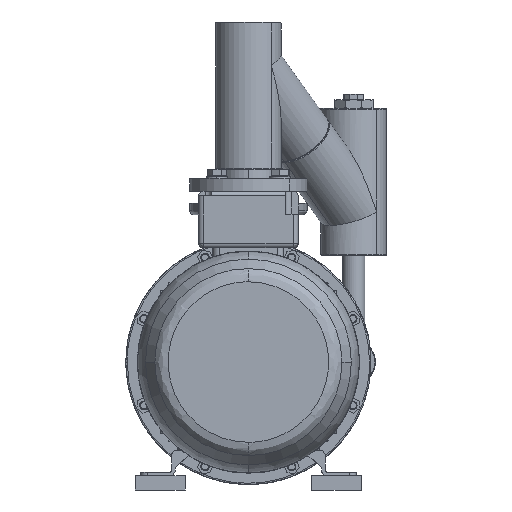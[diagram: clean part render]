
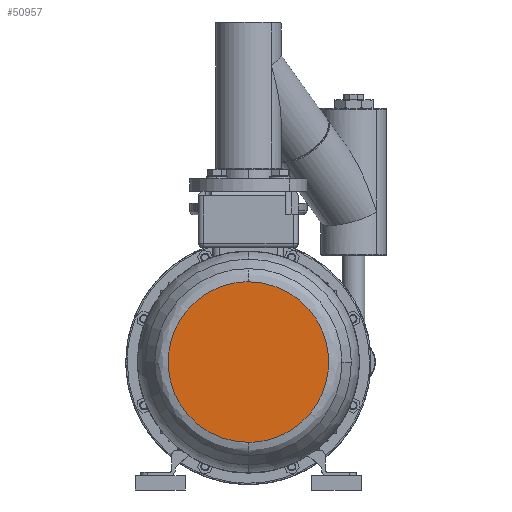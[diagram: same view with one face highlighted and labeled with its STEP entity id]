
A CAD part, front view. The second image highlights one B-rep face of the part: STEP entity #50957.
In plain terms, the highlighted planar face has unit normal (0, -1, 0).
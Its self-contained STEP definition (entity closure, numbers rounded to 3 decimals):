
#7953 = CARTESIAN_POINT ( 'NONE',  ( -154.625, -859.435, 167.656 ) ) ;
#7955 = CARTESIAN_POINT ( 'NONE',  ( -380.49, -859.435, 167.656 ) ) ;
#7957 = CARTESIAN_POINT ( 'NONE',  ( -380.49, -859.435, -58.209 ) ) ;
#7958 = CARTESIAN_POINT ( 'NONE',  ( -154.625, -859.435, -58.209 ) ) ;
#7969 =( BOUNDED_CURVE ( )  B_SPLINE_CURVE ( 3, ( #7958, #7957, #7955, #7953 ),
 .UNSPECIFIED., .F., .T. ) 
 B_SPLINE_CURVE_WITH_KNOTS ( ( 4, 4 ),
 ( 0., 1. ),
 .UNSPECIFIED. ) 
 CURVE ( )  GEOMETRIC_REPRESENTATION_ITEM ( )  RATIONAL_B_SPLINE_CURVE ( ( 1., 0.333, 0.333, 1. ) ) 
 REPRESENTATION_ITEM ( '' )  );
#10782 = CARTESIAN_POINT ( 'NONE',  ( -154.625, -859.435, 167.656 ) ) ;
#11221 = CARTESIAN_POINT ( 'NONE',  ( -154.625, -859.435, -58.209 ) ) ;
#14391 = FACE_OUTER_BOUND ( 'NONE', #51663, .T. ) ;
#14402 = PLANE ( 'NONE',  #14515 ) ;
#14480 = DIRECTION ( 'NONE',  ( 1., 0., 0. ) ) ;
#14497 = DIRECTION ( 'NONE',  ( 0., -1., 0. ) ) ;
#14498 = CARTESIAN_POINT ( 'NONE',  ( -154.625, -859.435, 54.724 ) ) ;
#14515 = AXIS2_PLACEMENT_3D ( 'NONE', #14498, #14497, #14480 ) ;
#14578 = CARTESIAN_POINT ( 'NONE',  ( -154.625, -859.435, -58.209 ) ) ;
#14581 = CARTESIAN_POINT ( 'NONE',  ( 71.24, -859.435, -58.209 ) ) ;
#14583 = CARTESIAN_POINT ( 'NONE',  ( 71.24, -859.435, 167.656 ) ) ;
#14586 = CARTESIAN_POINT ( 'NONE',  ( -154.625, -859.435, 167.656 ) ) ;
#14597 =( BOUNDED_CURVE ( )  B_SPLINE_CURVE ( 3, ( #14586, #14583, #14581, #14578 ),
 .UNSPECIFIED., .F., .F. ) 
 B_SPLINE_CURVE_WITH_KNOTS ( ( 4, 4 ),
 ( 0., 1. ),
 .UNSPECIFIED. ) 
 CURVE ( )  GEOMETRIC_REPRESENTATION_ITEM ( )  RATIONAL_B_SPLINE_CURVE ( ( 1., 0.333, 0.333, 1. ) ) 
 REPRESENTATION_ITEM ( '' )  );
#50957 = ADVANCED_FACE ( 'NONE', ( #14391 ), #14402, .T. ) ;
#51037 = EDGE_CURVE ( 'NONE', #104223, #104317, #14597, .T. ) ;
#51535 = ORIENTED_EDGE ( 'NONE', *, *, #103380, .F. ) ;
#51663 = EDGE_LOOP ( 'NONE', ( #51535, #52472 ) ) ;
#52472 = ORIENTED_EDGE ( 'NONE', *, *, #51037, .F. ) ;
#103380 = EDGE_CURVE ( 'NONE', #104317, #104223, #7969, .T. ) ;
#104223 = VERTEX_POINT ( 'NONE', #10782 ) ;
#104317 = VERTEX_POINT ( 'NONE', #11221 ) ;
